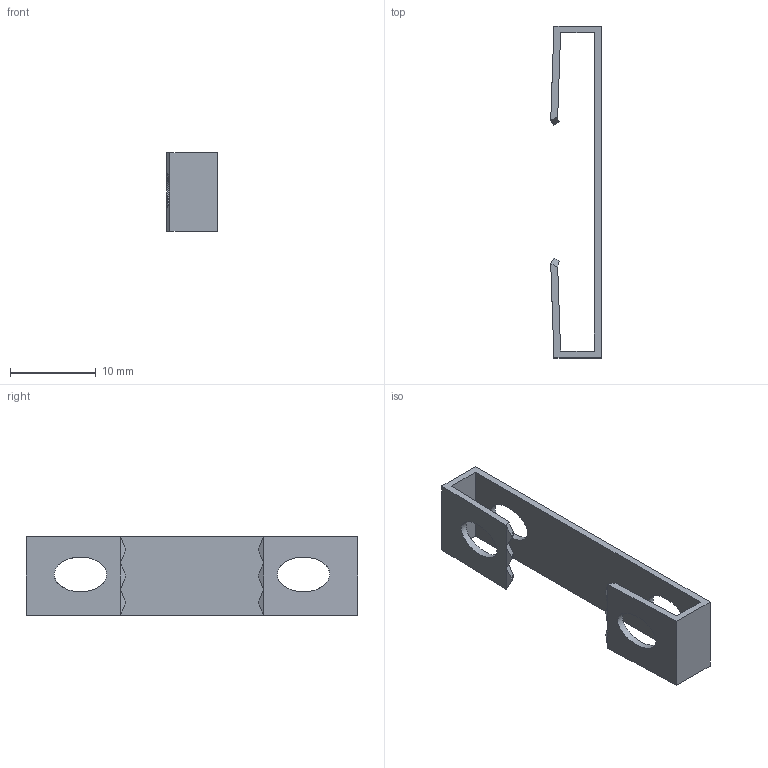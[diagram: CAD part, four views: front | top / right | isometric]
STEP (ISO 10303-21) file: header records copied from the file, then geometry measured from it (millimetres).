
FILE_DESCRIPTION(/* description */ ('','CAx-IF Rec.Pracs.---Representation and Presentation of Product Manufacturing Information (PMI)---3.8---2014-02-18'),/* implementation_level */ '2;1');
FILE_NAME(/* name */ 'C:\Users\JN\Documents\CAD Drawings\The Sensor Connection\3D\LPPS\LPPS-SL Mounting Bracket.stp',/* time_stamp */ '2017-01-04T13:02:15-05:00',/* author */ ('JN'),/* organization */ (''),/* preprocessor_version */ 'ST-DEVELOPER v16.5',/* originating_system */ 'Autodesk Inventor LT',/* authorisation */ '');
FILE_SCHEMA (('AP242_MANAGED_MODEL_BASED_3D_ENGINEERING_MIM_LF { 1 0 10303 442 1 1 4 }'));
Length unit declared in the file: inch
Products named in the file (1): LPPS-SL Mounting Bracket
Bounding box: 5.91 x 38.73 x 9.14 mm (x, y, z)
Volume: 442 mm3; surface area: 1282.1 mm2
Topology: 1 solids, 1 shells, 41 faces, 112 edges, 73 vertices
Faces by surface type: plane 37, bspline 4
Entity records: 1370 total; most frequent: CARTESIAN_POINT 299, ORIENTED_EDGE 224, DIRECTION 192, EDGE_CURVE 112, LINE 100, VECTOR 100, VERTEX_POINT 73, EDGE_LOOP 49
